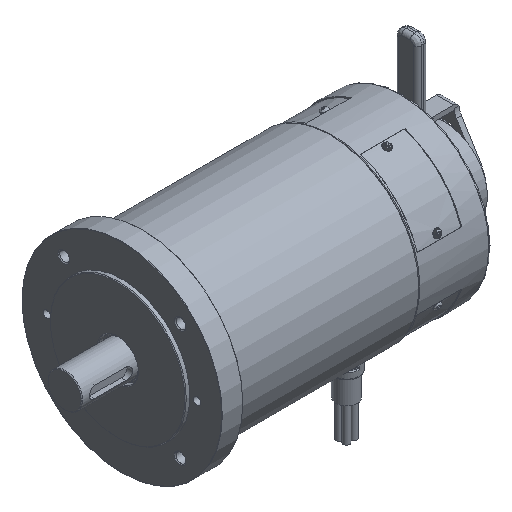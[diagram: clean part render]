
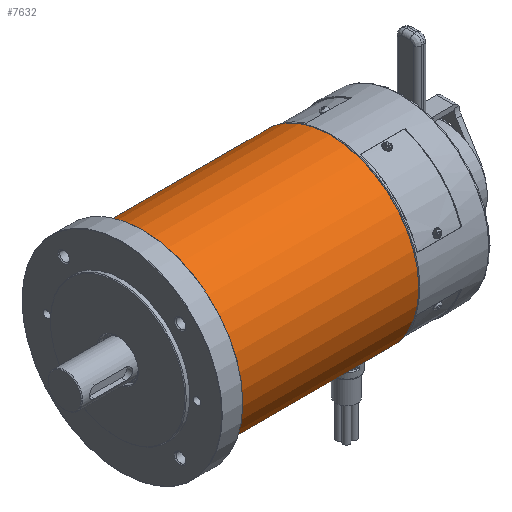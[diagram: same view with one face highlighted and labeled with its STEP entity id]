
A CAD part, isometric view. The second image highlights one B-rep face of the part: STEP entity #7632.
In plain terms, the highlighted cylindrical face has radius 62 mm (diameter 124 mm), a full revolution.
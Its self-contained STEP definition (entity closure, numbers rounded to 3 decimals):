
#837 = CARTESIAN_POINT ( 'NONE',  ( 52.527, -16.283, 0. ) ) ;
#1034 = EDGE_LOOP ( 'NONE', ( #14352 ) ) ;
#1177 = CIRCLE ( 'NONE', #6419, 62. ) ;
#1551 = EDGE_CURVE ( 'NONE', #3658, #3658, #1177, .T. ) ;
#2490 = DIRECTION ( 'NONE',  ( 1., 0., 0. ) ) ;
#3001 = AXIS2_PLACEMENT_3D ( 'NONE', #837, #2490, #6830 ) ;
#3658 = VERTEX_POINT ( 'NONE', #7230 ) ;
#4640 = CARTESIAN_POINT ( 'NONE',  ( 96.027, -16.283, 0. ) ) ;
#4890 = AXIS2_PLACEMENT_3D ( 'NONE', #4640, #15279, #19704 ) ;
#6419 = AXIS2_PLACEMENT_3D ( 'NONE', #14696, #11952, #17897 ) ;
#6830 = DIRECTION ( 'NONE',  ( 0., 1., 0. ) ) ;
#7230 = CARTESIAN_POINT ( 'NONE',  ( 181.527, 45.717, 0. ) ) ;
#7632 = ADVANCED_FACE ( 'NONE', ( #19413, #11299 ), #13892, .T. ) ;
#8184 = VERTEX_POINT ( 'NONE', #9090 ) ;
#9090 = CARTESIAN_POINT ( 'NONE',  ( 52.527, 45.717, 0. ) ) ;
#11299 = FACE_OUTER_BOUND ( 'NONE', #1034, .T. ) ;
#11952 = DIRECTION ( 'NONE',  ( -1., 0., 0. ) ) ;
#13892 = CYLINDRICAL_SURFACE ( 'NONE', #4890, 62. ) ;
#14352 = ORIENTED_EDGE ( 'NONE', *, *, #1551, .T. ) ;
#14483 = EDGE_CURVE ( 'NONE', #8184, #8184, #18688, .T. ) ;
#14696 = CARTESIAN_POINT ( 'NONE',  ( 181.527, -16.283, 0. ) ) ;
#15279 = DIRECTION ( 'NONE',  ( 1., 0., 0. ) ) ;
#17536 = EDGE_LOOP ( 'NONE', ( #19433 ) ) ;
#17897 = DIRECTION ( 'NONE',  ( 0., 1., 0. ) ) ;
#18688 = CIRCLE ( 'NONE', #3001, 62. ) ;
#19413 = FACE_OUTER_BOUND ( 'NONE', #17536, .T. ) ;
#19433 = ORIENTED_EDGE ( 'NONE', *, *, #14483, .T. ) ;
#19704 = DIRECTION ( 'NONE',  ( 0., 1., 0. ) ) ;
